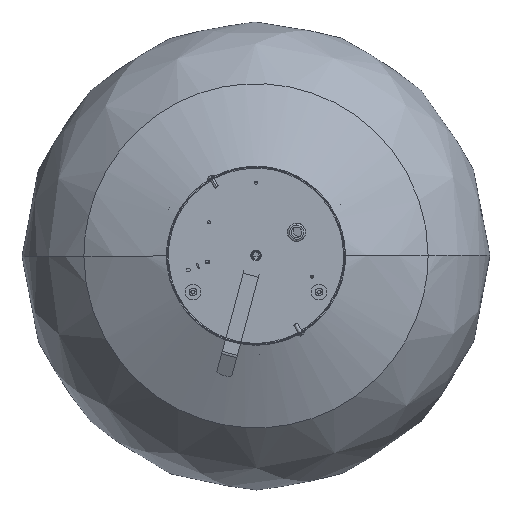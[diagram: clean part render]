
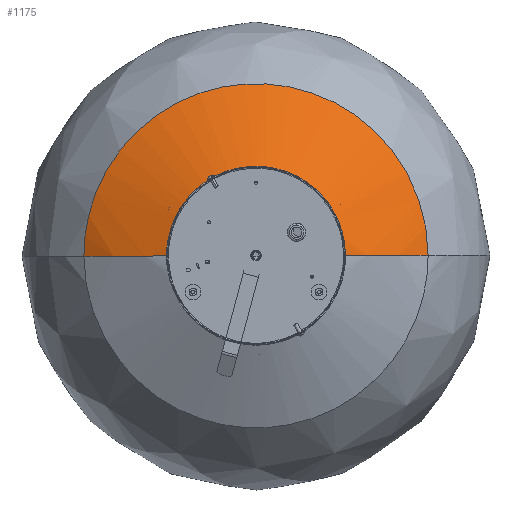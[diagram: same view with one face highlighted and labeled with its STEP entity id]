
A CAD part, top view. The second image highlights one B-rep face of the part: STEP entity #1175.
In plain terms, the highlighted free-form (B-spline) face has degree [2, 2] with [9, 5] control points.
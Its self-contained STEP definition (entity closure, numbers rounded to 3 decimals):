
#1175=ADVANCED_FACE('',(#2143),#14420,.T.);
#2143=FACE_OUTER_BOUND('',#3238,.T.);
#3238=EDGE_LOOP('',(#7649,#7650,#7651,#7652));
#7649=ORIENTED_EDGE('',*,*,#9900,.T.);
#7650=ORIENTED_EDGE('',*,*,#9894,.T.);
#7651=ORIENTED_EDGE('',*,*,#9902,.T.);
#7652=ORIENTED_EDGE('',*,*,#9895,.T.);
#9894=EDGE_CURVE('',#13460,#13461,#12114,.T.);
#9895=EDGE_CURVE('',#13462,#13459,#12115,.T.);
#9900=EDGE_CURVE('',#13459,#13460,#12120,.T.);
#9902=EDGE_CURVE('',#13461,#13462,#12122,.T.);
#12114=(
BOUNDED_CURVE()
B_SPLINE_CURVE(2,(#63884,#63885,#63886),.UNSPECIFIED.,.F.,.F.)
B_SPLINE_CURVE_WITH_KNOTS((3,3),(0.,100.695),.UNSPECIFIED.)
CURVE()
GEOMETRIC_REPRESENTATION_ITEM()
RATIONAL_B_SPLINE_CURVE((1.,0.984,1.))
REPRESENTATION_ITEM('')
);
#12115=(
BOUNDED_CURVE()
B_SPLINE_CURVE(2,(#63887,#63888,#63889),.UNSPECIFIED.,.F.,.F.)
B_SPLINE_CURVE_WITH_KNOTS((3,3),(0.,100.695),.UNSPECIFIED.)
CURVE()
GEOMETRIC_REPRESENTATION_ITEM()
RATIONAL_B_SPLINE_CURVE((1.,0.984,1.))
REPRESENTATION_ITEM('')
);
#12120=(
BOUNDED_CURVE()
B_SPLINE_CURVE(2,(#63910,#63911,#63912,#63913,#63914),.UNSPECIFIED.,.F.,
 .F.)
B_SPLINE_CURVE_WITH_KNOTS((3,2,3),(-235.619,-117.81,
0.),.UNSPECIFIED.)
CURVE()
GEOMETRIC_REPRESENTATION_ITEM()
RATIONAL_B_SPLINE_CURVE((1.,0.707,1.,0.707,1.))
REPRESENTATION_ITEM('')
);
#12122=(
BOUNDED_CURVE()
B_SPLINE_CURVE(2,(#63920,#63921,#63922,#63923,#63924),.UNSPECIFIED.,.F.,
 .F.)
B_SPLINE_CURVE_WITH_KNOTS((3,2,3),(-519.949,-259.974,
0.),.UNSPECIFIED.)
CURVE()
GEOMETRIC_REPRESENTATION_ITEM()
RATIONAL_B_SPLINE_CURVE((1.,0.707,1.,0.707,1.))
REPRESENTATION_ITEM('')
);
#13459=VERTEX_POINT('',#63827);
#13460=VERTEX_POINT('',#63828);
#13461=VERTEX_POINT('',#63829);
#13462=VERTEX_POINT('',#63830);
#14420=(
BOUNDED_SURFACE()
B_SPLINE_SURFACE(2,2,((#63326,#63327,#63328,#63329,#63330),(#63331,#63332,
#63333,#63334,#63335),(#63336,#63337,#63338,#63339,#63340),(#63341,#63342,
#63343,#63344,#63345),(#63346,#63347,#63348,#63349,#63350),(#63351,#63352,
#63353,#63354,#63355),(#63356,#63357,#63358,#63359,#63360),(#63361,#63362,
#63363,#63364,#63365),(#63366,#63367,#63368,#63369,#63370)),
 .UNSPECIFIED.,.T.,.F.,.F.)
B_SPLINE_SURFACE_WITH_KNOTS((3,2,2,2,3),(3,2,3),(0.,447.677,895.354,
1343.031,1790.708),(0.,447.677,895.354),
 .UNSPECIFIED.)
GEOMETRIC_REPRESENTATION_ITEM()
RATIONAL_B_SPLINE_SURFACE(((1.,0.707,1.,0.707,1.),
(0.707,0.5,0.707,0.5,0.707),(1.,0.707,
1.,0.707,1.),(0.707,0.5,0.707,0.5,0.707),
(1.,0.707,1.,0.707,1.),(0.707,0.5,0.707,
0.5,0.707),(1.,0.707,1.,0.707,1.),(0.707,
0.5,0.707,0.5,0.707),(1.,0.707,1.,0.707,
1.)))
REPRESENTATION_ITEM('')
SURFACE()
);
#63326=CARTESIAN_POINT('',(0.756,-470.776,-133.777));
#63327=CARTESIAN_POINT('',(-284.243,-471.532,-133.777));
#63328=CARTESIAN_POINT('',(-284.999,-186.533,-133.777));
#63329=CARTESIAN_POINT('',(-285.755,98.466,-133.777));
#63330=CARTESIAN_POINT('',(-0.756,99.222,-133.777));
#63331=CARTESIAN_POINT('',(0.756,-470.776,-133.777));
#63332=CARTESIAN_POINT('',(-284.243,-471.532,151.223));
#63333=CARTESIAN_POINT('',(-284.999,-186.533,151.223));
#63334=CARTESIAN_POINT('',(-285.755,98.466,151.223));
#63335=CARTESIAN_POINT('',(-0.756,99.222,-133.777));
#63336=CARTESIAN_POINT('',(0.756,-470.776,-133.777));
#63337=CARTESIAN_POINT('',(0.756,-470.776,151.223));
#63338=CARTESIAN_POINT('',(0.,-185.777,151.223));
#63339=CARTESIAN_POINT('',(-0.756,99.222,151.223));
#63340=CARTESIAN_POINT('',(-0.756,99.222,-133.777));
#63341=CARTESIAN_POINT('',(0.756,-470.776,-133.777));
#63342=CARTESIAN_POINT('',(285.755,-470.021,151.223));
#63343=CARTESIAN_POINT('',(284.999,-185.022,151.223));
#63344=CARTESIAN_POINT('',(284.243,99.977,151.223));
#63345=CARTESIAN_POINT('',(-0.756,99.222,-133.777));
#63346=CARTESIAN_POINT('',(0.756,-470.776,-133.777));
#63347=CARTESIAN_POINT('',(285.755,-470.021,-133.777));
#63348=CARTESIAN_POINT('',(284.999,-185.022,-133.777));
#63349=CARTESIAN_POINT('',(284.243,99.977,-133.777));
#63350=CARTESIAN_POINT('',(-0.756,99.222,-133.777));
#63351=CARTESIAN_POINT('',(0.756,-470.776,-133.777));
#63352=CARTESIAN_POINT('',(285.755,-470.021,-418.777));
#63353=CARTESIAN_POINT('',(284.999,-185.022,-418.777));
#63354=CARTESIAN_POINT('',(284.243,99.977,-418.777));
#63355=CARTESIAN_POINT('',(-0.756,99.222,-133.777));
#63356=CARTESIAN_POINT('',(0.756,-470.776,-133.777));
#63357=CARTESIAN_POINT('',(0.756,-470.776,-418.777));
#63358=CARTESIAN_POINT('',(0.,-185.777,-418.777));
#63359=CARTESIAN_POINT('',(-0.756,99.222,-418.777));
#63360=CARTESIAN_POINT('',(-0.756,99.222,-133.777));
#63361=CARTESIAN_POINT('',(0.756,-470.776,-133.777));
#63362=CARTESIAN_POINT('',(-284.243,-471.532,-418.777));
#63363=CARTESIAN_POINT('',(-284.999,-186.533,-418.777));
#63364=CARTESIAN_POINT('',(-285.755,98.466,-418.777));
#63365=CARTESIAN_POINT('',(-0.756,99.222,-133.777));
#63366=CARTESIAN_POINT('',(0.756,-470.776,-133.777));
#63367=CARTESIAN_POINT('',(-284.243,-471.532,-133.777));
#63368=CARTESIAN_POINT('',(-284.999,-186.533,-133.777));
#63369=CARTESIAN_POINT('',(-285.755,98.466,-133.777));
#63370=CARTESIAN_POINT('',(-0.756,99.222,-133.777));
#63827=CARTESIAN_POINT('',(-75.,-185.976,141.177));
#63828=CARTESIAN_POINT('',(75.,-185.578,141.177));
#63829=CARTESIAN_POINT('',(165.504,-185.338,98.242));
#63830=CARTESIAN_POINT('',(-165.504,-186.216,98.242));
#63884=CARTESIAN_POINT('',(75.,-185.578,141.177));
#63885=CARTESIAN_POINT('',(124.084,-185.448,127.788));
#63886=CARTESIAN_POINT('',(165.504,-185.338,98.242));
#63887=CARTESIAN_POINT('',(-165.504,-186.216,98.242));
#63888=CARTESIAN_POINT('',(-124.084,-186.106,127.788));
#63889=CARTESIAN_POINT('',(-75.,-185.976,141.177));
#63910=CARTESIAN_POINT('',(-75.,-185.976,141.177));
#63911=CARTESIAN_POINT('',(-75.199,-110.976,141.177));
#63912=CARTESIAN_POINT('',(-0.199,-110.778,141.177));
#63913=CARTESIAN_POINT('',(74.801,-110.579,141.177));
#63914=CARTESIAN_POINT('',(75.,-185.578,141.177));
#63920=CARTESIAN_POINT('',(165.504,-185.338,98.242));
#63921=CARTESIAN_POINT('',(165.066,-19.834,98.242));
#63922=CARTESIAN_POINT('',(-0.439,-20.273,98.242));
#63923=CARTESIAN_POINT('',(-165.943,-20.712,98.242));
#63924=CARTESIAN_POINT('',(-165.504,-186.216,98.242));
